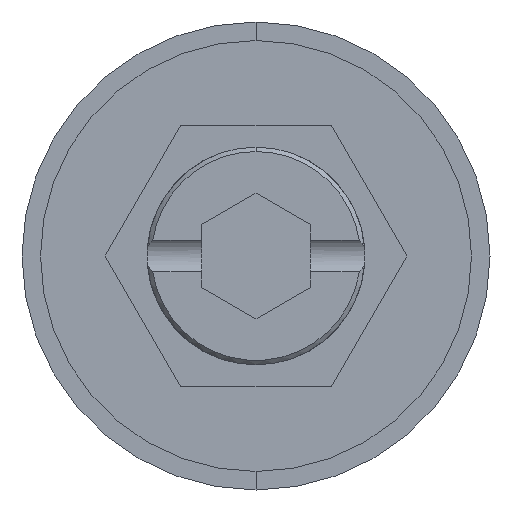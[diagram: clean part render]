
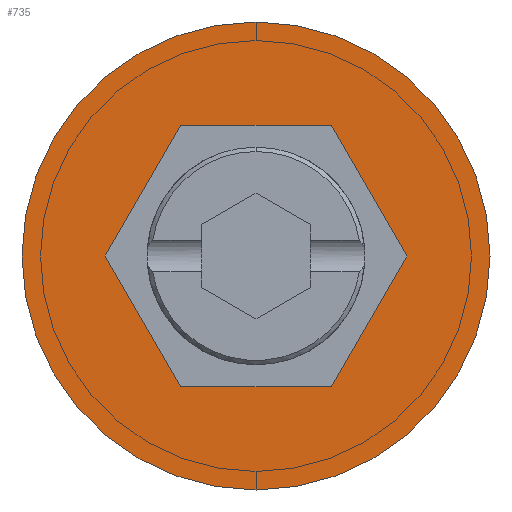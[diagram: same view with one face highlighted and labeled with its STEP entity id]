
A CAD part, front view. The second image highlights one B-rep face of the part: STEP entity #735.
In plain terms, the highlighted planar face has unit normal (0, -1, 0).
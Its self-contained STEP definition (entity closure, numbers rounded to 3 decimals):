
#16 = EDGE_CURVE ( 'NONE', #982, #1971, #1011, .T. ) ;
#27 = DIRECTION ( 'NONE',  ( -0.5, 0., 0.866 ) ) ;
#89 = DIRECTION ( 'NONE',  ( -0.5, 0., -0.866 ) ) ;
#100 = DIRECTION ( 'NONE',  ( 0., -1., 0. ) ) ;
#103 = CARTESIAN_POINT ( 'NONE',  ( 0., 0., 0. ) ) ;
#106 = DIRECTION ( 'NONE',  ( 0., 0., -1. ) ) ;
#108 = VERTEX_POINT ( 'NONE', #737 ) ;
#114 = CARTESIAN_POINT ( 'NONE',  ( 0., 0., -10.75 ) ) ;
#154 = FACE_OUTER_BOUND ( 'NONE', #1964, .T. ) ;
#166 = CARTESIAN_POINT ( 'NONE',  ( -6.928, 0., 0. ) ) ;
#173 = FACE_BOUND ( 'NONE', #1627, .T. ) ;
#271 = CARTESIAN_POINT ( 'NONE',  ( 0., 0., 10.75 ) ) ;
#442 = CARTESIAN_POINT ( 'NONE',  ( -3.464, 0., -6. ) ) ;
#508 = DIRECTION ( 'NONE',  ( 1., 0., 0. ) ) ;
#537 = VERTEX_POINT ( 'NONE', #1461 ) ;
#539 = CARTESIAN_POINT ( 'NONE',  ( 0., 0., 0. ) ) ;
#542 = DIRECTION ( 'NONE',  ( 0., -1., 0. ) ) ;
#545 = DIRECTION ( 'NONE',  ( 0., 0., -1. ) ) ;
#559 = VERTEX_POINT ( 'NONE', #1482 ) ;
#640 = AXIS2_PLACEMENT_3D ( 'NONE', #539, #542, #545 ) ;
#670 = VERTEX_POINT ( 'NONE', #1618 ) ;
#735 = ADVANCED_FACE ( 'NONE', ( #173, #154 ), #1741, .T. ) ;
#737 = CARTESIAN_POINT ( 'NONE',  ( 3.464, 0., 6. ) ) ;
#808 = CARTESIAN_POINT ( 'NONE',  ( 6.928, 0., 0. ) ) ;
#919 = CARTESIAN_POINT ( 'NONE',  ( -6.928, 0., 0. ) ) ;
#924 = CARTESIAN_POINT ( 'NONE',  ( -3.464, 0., 6. ) ) ;
#938 = VERTEX_POINT ( 'NONE', #166 ) ;
#972 = DIRECTION ( 'NONE',  ( 0.5, 0., -0.866 ) ) ;
#982 = VERTEX_POINT ( 'NONE', #271 ) ;
#1011 = CIRCLE ( 'NONE', #640, 10.75 ) ;
#1018 = DIRECTION ( 'NONE',  ( 0.5, 0., 0.866 ) ) ;
#1054 = ORIENTED_EDGE ( 'NONE', *, *, #1284, .F. ) ;
#1056 = ORIENTED_EDGE ( 'NONE', *, *, #1989, .T. ) ;
#1077 = ORIENTED_EDGE ( 'NONE', *, *, #2080, .F. ) ;
#1079 = EDGE_CURVE ( 'NONE', #559, #537, #2037, .T. ) ;
#1090 = CARTESIAN_POINT ( 'NONE',  ( 3.464, 0., 6. ) ) ;
#1110 = ORIENTED_EDGE ( 'NONE', *, *, #1805, .F. ) ;
#1151 = DIRECTION ( 'NONE',  ( -1., 0., 0. ) ) ;
#1152 = ORIENTED_EDGE ( 'NONE', *, *, #1251, .F. ) ;
#1165 = AXIS2_PLACEMENT_3D ( 'NONE', #1729, #1728, #1993 ) ;
#1203 = VERTEX_POINT ( 'NONE', #808 ) ;
#1251 = EDGE_CURVE ( 'NONE', #938, #559, #1977, .T. ) ;
#1284 = EDGE_CURVE ( 'NONE', #108, #670, #1944, .T. ) ;
#1461 = CARTESIAN_POINT ( 'NONE',  ( 3.464, 0., -6. ) ) ;
#1482 = CARTESIAN_POINT ( 'NONE',  ( -3.464, 0., -6. ) ) ;
#1553 = ORIENTED_EDGE ( 'NONE', *, *, #1079, .F. ) ;
#1601 = EDGE_CURVE ( 'NONE', #670, #938, #1873, .T. ) ;
#1618 = CARTESIAN_POINT ( 'NONE',  ( -3.464, 0., 6. ) ) ;
#1627 = EDGE_LOOP ( 'NONE', ( #1553, #1152, #2192, #1054, #1110, #1077 ) ) ;
#1698 = VECTOR ( 'NONE', #1018, 1000. ) ;
#1712 = AXIS2_PLACEMENT_3D ( 'NONE', #103, #100, #106 ) ;
#1723 = CIRCLE ( 'NONE', #1712, 10.75 ) ;
#1725 = LINE ( 'NONE', #1740, #1698 ) ;
#1728 = DIRECTION ( 'NONE',  ( 0., -1., 0. ) ) ;
#1729 = CARTESIAN_POINT ( 'NONE',  ( 0., 0., 0. ) ) ;
#1740 = CARTESIAN_POINT ( 'NONE',  ( 3.464, 0., -6. ) ) ;
#1741 = PLANE ( 'NONE',  #1165 ) ;
#1778 = VECTOR ( 'NONE', #27, 1000. ) ;
#1801 = LINE ( 'NONE', #1966, #1778 ) ;
#1805 = EDGE_CURVE ( 'NONE', #1203, #108, #1801, .T. ) ;
#1849 = VECTOR ( 'NONE', #89, 1000. ) ;
#1873 = LINE ( 'NONE', #924, #1849 ) ;
#1943 = VECTOR ( 'NONE', #1151, 1000. ) ;
#1944 = LINE ( 'NONE', #1090, #1943 ) ;
#1964 = EDGE_LOOP ( 'NONE', ( #1056, #2134 ) ) ;
#1966 = CARTESIAN_POINT ( 'NONE',  ( 6.928, 0., 0. ) ) ;
#1971 = VERTEX_POINT ( 'NONE', #114 ) ;
#1977 = LINE ( 'NONE', #919, #1983 ) ;
#1983 = VECTOR ( 'NONE', #972, 1000. ) ;
#1989 = EDGE_CURVE ( 'NONE', #1971, #982, #1723, .T. ) ;
#1993 = DIRECTION ( 'NONE',  ( 0., 0., -1. ) ) ;
#2036 = VECTOR ( 'NONE', #508, 1000. ) ;
#2037 = LINE ( 'NONE', #442, #2036 ) ;
#2080 = EDGE_CURVE ( 'NONE', #537, #1203, #1725, .T. ) ;
#2134 = ORIENTED_EDGE ( 'NONE', *, *, #16, .T. ) ;
#2192 = ORIENTED_EDGE ( 'NONE', *, *, #1601, .F. ) ;
